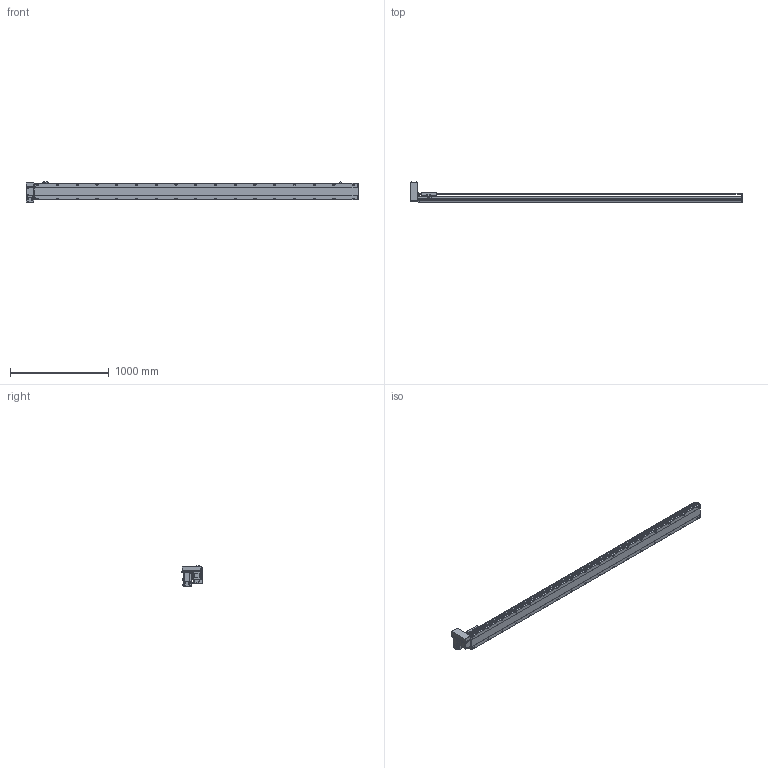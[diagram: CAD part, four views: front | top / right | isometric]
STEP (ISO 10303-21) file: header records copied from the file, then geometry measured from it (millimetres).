
FILE_DESCRIPTION( ( 'STEP AP214' ), '1' );
FILE_NAME( 'x:/temp/worker_5/temp/exporttempdir_3988_150_GVQYs/format_0/PBS170-P40-S3000-RU-T75-C1-N(0).stp', '2022-06-08T06:01:36', ( 'License CC BY-ND 4.0' ), ( 'CADENAS' ), ' ', 'PARTsolutions', ' ' );
FILE_SCHEMA( ( 'AUTOMOTIVE_DESIGN { 1 0 10303 214 1 1 1 1 }' ) );
Length unit declared in the file: millimetre
Products named in the file (7): PBS170-P40-S3000-RU-T75-C1-N(0); _PBS170-S3000()_body; _PBS170T-RU_motors; _T75-p1; _PBS170_sliser; _PBS170_plant; _PBS170_sensor
Assembly tree (8 placements, depth 2):
  PBS170-P40-S3000-RU-T75-C1-N(0)
    _PBS170-S3000()_body
    _PBS170T-RU_motors
    _T75-p1
    _PBS170_sliser
    _PBS170_plant
    _PBS170_sensor  x3
Bounding box: 3363 x 206 x 205.3 mm (x, y, z)
Volume: 25243265.2 mm3; surface area: 3158626.8 mm2
Topology: 8 solids, 8 shells, 1226 faces, 3235 edges, 2108 vertices
Faces by surface type: plane 741, cylinder 411, cone 64, sphere 8, torus 2
Full cylindrical faces by diameter (mm): 3.242 x4, 4 x2, 4.4 x4, 4.5 x6, 4.917 x4, 6 x9, 6.647 x42, 7 x2, 7.5 x4, 8 x8, 8.5 x34, 10 x4, 10.5 x34, 11 x2, 30 x2, 40 x1, 70 x1
Entity records: 45518 total; most frequent: CARTESIAN_POINT 7733, DIRECTION 5930, ORIENTED_EDGE 5568, EDGE_CURVE 2784, AXIS2_PLACEMENT_3D 2107, VERTEX_POINT 1946, LINE 1716, VECTOR 1716
